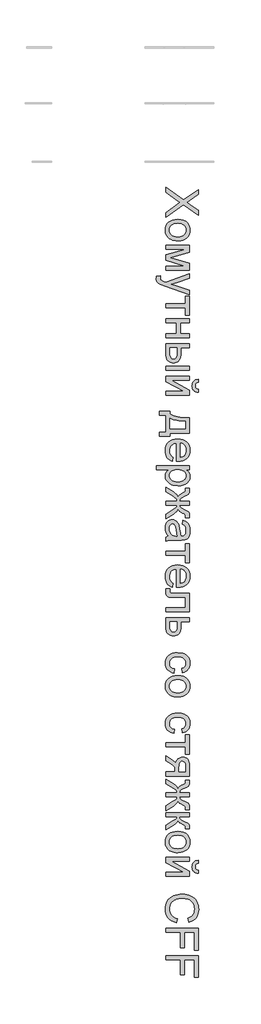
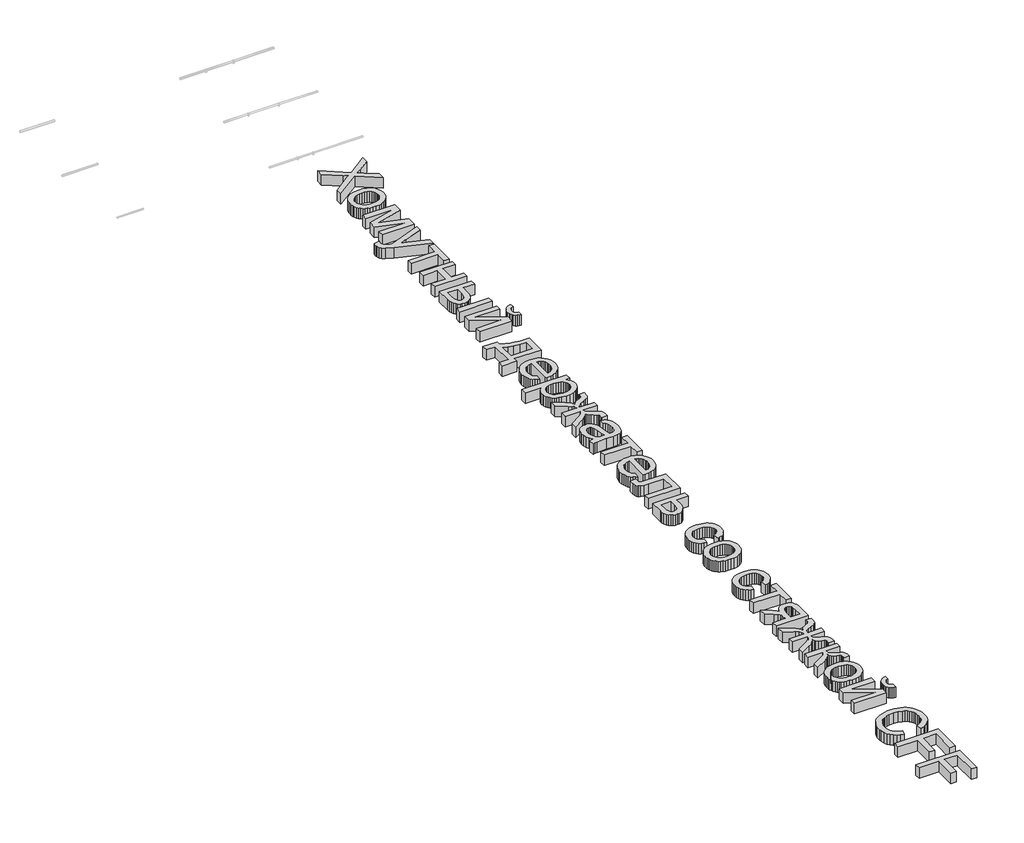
# One storey, part 24 of 33: 1 proxy.
"""IFC4 building model written with IfcOpenShell, lengths in millimetres."""

import ifcopenshell
import ifcopenshell.guid

model = None  # the IFC model being written
_history = None  # IfcOwnerHistory: only IFC2X3 demands one
_inside = {}  # id of a spatial element -> (the spatial element, [elements in it])
_under = {}  # id of a project, library or spatial element -> (it, [spatial elements below it])
_declared = {}  # id of a project -> (the project, [libraries it declares])
_typed = {}  # id of a type object -> (the type object, [elements of that type])
_made_of = {}  # id of a material, layer set ... -> (it, [elements and type objects made of it])


def new_model(schema):
    """Start an empty IFC model of exactly this schema.

    Asked for "IFC4X3", IfcOpenShell would pick the latest addendum, in which some entities
    have other attributes; the version numbers below select the first issue.
    IFC2X3 requires an IfcOwnerHistory on every rooted entity: one is made here for all.
    """
    global model, _history
    if schema == "IFC4X3":
        model = ifcopenshell.file(schema_version=(4, 3, 0, 0))
    else:
        model = ifcopenshell.file(schema=schema)
    _inside.clear()
    _under.clear()
    _declared.clear()
    _typed.clear()
    _made_of.clear()
    _history = None
    if model.schema == "IFC2X3":
        org = make("IfcOrganization", Name="unknown")
        user = make(
            "IfcPersonAndOrganization",
            ThePerson=make("IfcPerson", FamilyName="unknown"),
            TheOrganization=org,
        )
        app = make(
            "IfcApplication",
            ApplicationDeveloper=org,
            Version="unknown",
            ApplicationFullName="unknown",
            ApplicationIdentifier="unknown",
        )
        _history = make(
            "IfcOwnerHistory",
            OwningUser=user,
            OwningApplication=app,
            ChangeAction="ADDED",
            CreationDate=0,
        )
    return model


def make(cls, **values):
    """One entity of the class cls with the attributes given. An attribute that is None is left unset."""
    return model.create_entity(
        cls, **{name: value for name, value in values.items() if value is not None}
    )


def rooted(cls, **values):
    """An entity with a GlobalId (a new one), such as an element, a storey or a relation."""
    return make(cls, GlobalId=ifcopenshell.guid.new(), OwnerHistory=_history, **values)


def si_unit(unit_type, name, prefix=None):
    """IfcSIUnit, for example si_unit("LENGTHUNIT", "METRE", prefix="MILLI")."""
    return make("IfcSIUnit", UnitType=unit_type, Prefix=prefix, Name=name)


def assignment(units):
    """IfcUnitAssignment: the units of a project."""
    return None if units is None else make("IfcUnitAssignment", Units=units)


def point(xyz):
    """IfcCartesianPoint."""
    return None if xyz is None else make("IfcCartesianPoint", Coordinates=xyz)


def direction(xyz):
    """IfcDirection."""
    return None if xyz is None else make("IfcDirection", DirectionRatios=xyz)


def frame(location, z_axis=None, x_axis=None):
    """IfcAxis2Placement3D, a coordinate frame: its origin and axes. An axis left out is left unset."""
    return make(
        "IfcAxis2Placement3D",
        Location=point(location),
        Axis=direction(z_axis),
        RefDirection=direction(x_axis),
    )


def origin():
    """The frame at (0, 0, 0) with its axes left unset."""
    return frame((0.0, 0.0, 0.0))


def origin_with_axes():
    """The frame at (0, 0, 0) with the z axis (0, 0, 1) and the x axis (1, 0, 0) written out."""
    return frame((0.0, 0.0, 0.0), z_axis=(0.0, 0.0, 1.0), x_axis=(1.0, 0.0, 0.0))


def place(relative_to, where):
    """IfcLocalPlacement: puts the frame where relative to a parent placement (None: the world)."""
    return make(
        "IfcLocalPlacement", PlacementRelTo=relative_to, RelativePlacement=where
    )


def context(
    kind, dimensions, precision=None, world=None, true_north=None, identifier=None
):
    """IfcGeometricRepresentationContext, for example the 3D "Model" context."""
    return make(
        "IfcGeometricRepresentationContext",
        ContextIdentifier=identifier,
        ContextType=kind,
        CoordinateSpaceDimension=dimensions,
        Precision=precision,
        WorldCoordinateSystem=world,
        TrueNorth=true_north,
    )


def project(units=None, contexts=None):
    """IfcProject with its units and contexts."""
    return rooted(
        "IfcProject",
        Name="project",
        RepresentationContexts=contexts,
        UnitsInContext=assignment(units),
    )


def spatial(cls, under=None, at=None, **own):
    """A site, building, storey or space (cls), placed at a placement, below another one or the project."""
    s = rooted(cls, ObjectPlacement=at, **own)
    if under is not None:
        _under.setdefault(under.id(), (under, []))[1].append(s)
    return s


def polyline(points):
    """IfcPolyline through the points."""
    return make("IfcPolyline", Points=[point(p) for p in points])


def outline(outer, holes=None, kind="AREA"):
    """IfcArbitraryClosedProfileDef: a profile drawn as a closed curve; with holes, ...WithVoids."""
    if holes is None:
        return make("IfcArbitraryClosedProfileDef", ProfileType=kind, OuterCurve=outer)
    return make(
        "IfcArbitraryProfileDefWithVoids",
        ProfileType=kind,
        OuterCurve=outer,
        InnerCurves=holes,
    )


def extrude(swept, where, along, depth):
    """IfcExtrudedAreaSolid: the profile swept, set in the frame where, extruded along a direction by depth."""
    return make(
        "IfcExtrudedAreaSolid",
        SweptArea=swept,
        Position=where,
        ExtrudedDirection=direction(along),
        Depth=depth,
    )


def shape(context_of_items, identifier, shape_type, items):
    """IfcShapeRepresentation: the items that make up one representation, for example the "Body"."""
    return make(
        "IfcShapeRepresentation",
        ContextOfItems=context_of_items,
        RepresentationIdentifier=identifier,
        RepresentationType=shape_type,
        Items=items,
    )


def made_of(thing, what):
    """Note that an element or type object is made of a material, layer set ...; save() writes the relation."""
    if what is not None:
        _made_of.setdefault(what.id(), (what, []))[1].append(thing)
    return thing


def element(
    cls,
    number,
    at=None,
    inside=None,
    cuts=None,
    type_object=None,
    material=None,
    context=None,
    identifier="Body",
    shape_type=None,
    held_by="IfcProductDefinitionShape",
    body=None,
    shapes=None,
    **own,
):
    """One element of the class cls, such as IfcWall. Its Tag is "e" and its number.

    at: its placement. inside: the storey or other place that contains it. cuts: it is an
    opening in that element (IfcRelVoidsElement). A single representation is given by context,
    identifier, shape_type and body (its items); several are given by shapes. held_by: the class
    of the entity that holds the representations. save() writes the other relations.
    """
    e = rooted(cls, Tag="e%d" % number, ObjectPlacement=at, **own)
    if body is not None:
        shapes = [shape(context, identifier, shape_type, body)]
    if shapes is not None:
        e.Representation = make(held_by, Representations=shapes)
    if inside is not None:
        _inside.setdefault(inside.id(), (inside, []))[1].append(e)
    if cuts is not None:
        rooted(
            "IfcRelVoidsElement", RelatingBuildingElement=cuts, RelatedOpeningElement=e
        )
    if type_object is not None:
        _typed.setdefault(type_object.id(), (type_object, []))[1].append(e)
    return made_of(e, material)


def aggregate(whole, parts):
    """IfcRelAggregates: a whole, such as a stair, and the parts it consists of."""
    return rooted("IfcRelAggregates", RelatingObject=whole, RelatedObjects=parts)


def save(model, path):
    """Write the relations noted so far, then the file.

    IfcRelAggregates (storeys below a building ...), IfcRelContainedInSpatialStructure (elements
    in a storey), IfcRelDefinesByType, IfcRelAssociatesMaterial and IfcRelDeclares: one each for
    every whole, place, type object, material and project.
    """
    for whole, parts in _under.values():
        aggregate(whole, parts)
    for where, things in _inside.values():
        rooted(
            "IfcRelContainedInSpatialStructure",
            RelatedElements=things,
            RelatingStructure=where,
        )
    for kind, things in _typed.values():
        rooted("IfcRelDefinesByType", RelatedObjects=things, RelatingType=kind)
    for what, things in _made_of.values():
        rooted("IfcRelAssociatesMaterial", RelatedObjects=things, RelatingMaterial=what)
    for by, libraries in _declared.values():
        rooted("IfcRelDeclares", RelatingContext=by, RelatedDefinitions=libraries)
    model.write(path)


model = new_model("IFC4")

# Units and contexts
model_context = context("Model", 3, world=origin())
ifc_project = project(units=[si_unit("LENGTHUNIT", "METRE", prefix="MILLI")], contexts=[model_context])

# Site, building, storey
site = spatial("IfcSite", under=ifc_project)
building = spatial("IfcBuilding", under=site)
storey = spatial("IfcBuildingStorey", under=building, Name="Уровень 1", Elevation=0.0)

# Proxy
placement = place(None, origin())
element("IfcBuildingElementProxy", 1, Name="Надпись на модели 1", ObjectType="Надпись на модели 1", at=placement, inside=storey, context=model_context, shape_type="SweptSolid", body=[
    extrude(outline(polyline([(63524.4625724, -502.3363684), (63846.3856493, -730.0767531), (64115.2318032, -539.2594454), (64115.2318032, -627.8171377), (63963.9337262, -735.2690607), (63925.6043993, -760.90608), (63904.9433416, -771.4709838), (63964.9433416, -813.87483), (64115.2318032, -920.1729069), (64115.2318032, -1010.0286761), (63845.5202647, -819.2113684), (63524.4625724, -1046.9517531), (63524.4625724, -958.3940607), (63738.5010339, -806.6632915), (63782.9241109, -775.0767531), (63734.1741109, -740.3171377), (63524.4625724, -592.1921377), (63524.4625724, -502.3363684)])), origin_with_axes(), (0.0, 0.0, 1.0), 150.0),
    extrude(outline(polyline([(63741.3856493, -1083.87483), (63797.5725484, -1087.8682194), (63845.9890147, -1099.8483877), (63886.6350484, -1119.8153348), (63919.5106493, -1147.7690607), (63940.5232695, -1175.9120896), (63955.5322839, -1206.9757915), (63964.5376926, -1240.9601665), (63967.5394955, -1277.8652146), (63963.8841469, -1318.6058997), (63952.9181012, -1355.4433396), (63934.6413585, -1388.3775343), (63909.0539186, -1417.4084838), (63877.0211662, -1441.1028949), (63839.4084859, -1458.0274742), (63796.2158777, -1468.1822218), (63747.4433416, -1471.5671377), (63707.9150964, -1470.0707434), (63672.8399762, -1465.5815607), (63642.2179811, -1458.0995896), (63616.0491109, -1447.62483), (63593.445445, -1434.287991), (63573.5190628, -1418.2197819), (63556.2699642, -1399.4202026), (63541.6981493, -1377.8892531), (63530.1191229, -1354.4652747), (63521.8483897, -1329.9866088), (63516.8859498, -1304.4532555), (63515.2318032, -1277.8652146), (63518.8736301, -1236.5295776), (63529.7991109, -1199.3495896), (63548.0082455, -1166.3252506), (63573.5010339, -1137.4565607), (63605.8447839, -1114.0145535), (63644.6068032, -1097.2702627), (63689.7870916, -1087.2236881), (63741.3856493, -1083.87483)]), holes=[polyline([(63741.5298801, -1157.7209838), (63705.71107, -1159.8574021), (63674.6969474, -1166.2666569), (63648.4875123, -1176.9487482), (63627.0827647, -1191.9036761), (63610.4556613, -1210.0947819), (63598.5791589, -1230.4854069), (63591.4532575, -1253.0755511), (63589.077957, -1277.8652146), (63591.4667791, -1302.5286761), (63598.6332455, -1325.0286761), (63610.5773561, -1345.3652146), (63627.2991109, -1363.5382915), (63648.9156974, -1378.4932194), (63675.5443032, -1389.1753107), (63707.1849282, -1395.5845656), (63743.8375724, -1397.7209838), (63778.5205652, -1395.5710439), (63808.7233897, -1389.1212242), (63834.446046, -1378.3715247), (63855.6885339, -1363.3219454), (63872.3156373, -1345.0812603), (63884.1921397, -1324.7582434), (63891.3180412, -1302.3528949), (63893.6933416, -1277.8652146), (63891.3270556, -1253.0755511), (63884.2281974, -1230.4854069), (63872.3967671, -1210.0947819), (63855.8327647, -1191.9036761), (63834.4911181, -1176.9487482), (63808.3267551, -1166.2666569), (63777.3396758, -1159.8574021), (63741.5298801, -1157.7209838)])]), origin_with_axes(), (0.0, 0.0, 1.0), 150.0),
    extrude(outline(polyline([(63958.3087262, -1554.6440607), (63958.3087262, -1681.7113684), (63611.0010339, -1779.6440607), (63958.3087262, -1885.2209838), (63958.3087262, -2006.9517531), (63524.4625724, -2006.9517531), (63524.4625724, -1933.1055992), (63873.7894955, -1933.1055992), (63524.4625724, -1826.9517531), (63524.4625724, -1730.0286761), (63890.5202647, -1628.4902146), (63524.4625724, -1628.4902146), (63524.4625724, -1554.6440607), (63958.3087262, -1554.6440607)])), origin_with_axes(), (0.0, 0.0, 1.0), 150.0),
    extrude(outline(polyline([(63358.3087262, -2117.7209838), (63429.4144955, -2108.4902146), (63422.9241109, -2145.9902146), (63424.9613705, -2165.7137723), (63431.0731493, -2181.0382915), (63440.8267551, -2192.9733877), (63453.7894955, -2202.5286761), (63508.1644955, -2222.7209838), (63526.0491109, -2228.4902146), (63958.3087262, -2071.5671377), (63958.3087262, -2149.4517531), (63717.4433416, -2232.6729069), (63621.0971878, -2261.6632915), (63706.1933416, -2290.6536761), (63958.3087262, -2376.1825223), (63958.3087262, -2453.4902146), (63514.077957, -2302.4805992), (63417.7318032, -2263.24983), (63386.9745916, -2243.1656954), (63365.6644955, -2220.4132915), (63353.2245916, -2193.9830031), (63349.077957, -2162.8652146), (63351.3856493, -2141.4830031), (63358.3087262, -2117.7209838)])), origin_with_axes(), (0.0, 0.0, 1.0), 150.0),
    extrude(outline(polyline([(63958.3087262, -2477.7209838), (63958.3087262, -2828.4902146), (63884.4625724, -2828.4902146), (63884.4625724, -2690.0286761), (63524.4625724, -2690.0286761), (63524.4625724, -2616.1825223), (63884.4625724, -2616.1825223), (63884.4625724, -2477.7209838), (63958.3087262, -2477.7209838)])), origin_with_axes(), (0.0, 0.0, 1.0), 150.0),
    extrude(outline(polyline([(63958.3087262, -2893.1055992), (63958.3087262, -2966.9517531), (63792.1548801, -2966.9517531), (63792.1548801, -3160.7979069), (63958.3087262, -3160.7979069), (63958.3087262, -3234.6440607), (63524.4625724, -3234.6440607), (63524.4625724, -3160.7979069), (63718.3087262, -3160.7979069), (63718.3087262, -2966.9517531), (63524.4625724, -2966.9517531), (63524.4625724, -2893.1055992), (63958.3087262, -2893.1055992)])), origin_with_axes(), (0.0, 0.0, 1.0), 150.0),
    extrude(outline(polyline([(63958.3087262, -3345.4132915), (63958.3087262, -3419.2594454), (63801.3856493, -3419.2594454), (63801.3856493, -3510.5575223), (63799.0734498, -3552.569241), (63792.1368512, -3589.4697819), (63780.5758537, -3621.2591449), (63764.390457, -3647.93733), (63744.1395556, -3669.0446016), (63720.3820436, -3684.1212242), (63693.117921, -3693.1671978), (63662.3471878, -3696.1825223), (63634.8937623, -3693.6539766), (63609.5046397, -3686.0683396), (63586.17982, -3673.4256112), (63564.9193032, -3655.7257915), (63547.2194835, -3632.4730872), (63534.5767551, -3603.171705), (63526.9911181, -3567.8216449), (63524.4625724, -3526.4229069), (63524.4625724, -3345.4132915), (63958.3087262, -3345.4132915)]), holes=[polyline([(63598.3087262, -3419.2594454), (63598.3087262, -3495.12483), (63602.1849282, -3553.9349261), (63607.0301806, -3575.9571617), (63613.8135339, -3593.0575223), (63622.6521758, -3605.8670175), (63633.6632936, -3615.0166569), (63646.8468873, -3620.5064406), (63662.202957, -3622.3363684), (63686.3255532, -3616.9096857), (63707.6356493, -3600.6296377), (63716.343582, -3586.4995295), (63722.5635339, -3565.8159357), (63727.5394955, -3504.7882915), (63727.5394955, -3419.2594454), (63598.3087262, -3419.2594454)])]), origin_with_axes(), (0.0, 0.0, 1.0), 150.0),
    extrude(outline(polyline([(63958.3087262, -3751.5671377), (63958.3087262, -3825.4132915), (63524.4625724, -3825.4132915), (63524.4625724, -3751.5671377), (63958.3087262, -3751.5671377)])), origin_with_axes(), (0.0, 0.0, 1.0), 150.0),
    extrude(outline(polyline([(64115.2318032, -4176.1825223), (64115.2318032, -4231.5671377), (64090.0319835, -4227.1095055), (64067.9421397, -4219.6500704), (64048.9622719, -4209.1888324), (64033.0923801, -4195.7257915), (64020.5668392, -4179.5313805), (64011.6200243, -4160.8760319), (64006.2519354, -4139.7597458), (64004.4625724, -4116.1825223), (64006.2384137, -4090.5725463), (64011.5659378, -4067.6849261), (64020.4451445, -4047.5196617), (64032.8760339, -4030.0767531), (64048.6783176, -4015.608604), (64067.671707, -4004.3676184), (64089.8562022, -3996.3537963), (64115.2318032, -3991.5671377), (64115.2318032, -4046.9517531), (64090.9108897, -4054.7402146), (64073.6212262, -4067.7209838), (64063.2906974, -4085.9661761), (64059.8471878, -4109.5479069), (64063.1825243, -4136.1584838), (64073.1885339, -4155.4132915), (64090.3700243, -4168.3940607), (64115.2318032, -4176.1825223)])), origin_with_axes(), (0.0, 0.0, 1.0), 150.0),
    extrude(outline(polyline([(63958.3087262, -3936.1825223), (63958.3087262, -4010.0286761), (63627.4433416, -4010.0286761), (63958.3087262, -4191.4709838), (63958.3087262, -4286.9517531), (63524.4625724, -4286.9517531), (63524.4625724, -4213.1055992), (63853.3087262, -4213.1055992), (63524.4625724, -4032.8171377), (63524.4625724, -3936.1825223), (63958.3087262, -3936.1825223)])), origin_with_axes(), (0.0, 0.0, 1.0), 150.0),
    extrude(outline(polyline([(63958.3087262, -4693.1055992), (63958.3087262, -4970.0286761), (63598.3087262, -4970.0286761), (63598.3087262, -5025.4132915), (63404.4625724, -5025.4132915), (63404.4625724, -4951.5671377), (63524.4625724, -4951.5671377), (63524.4625724, -4646.9517531), (63404.4625724, -4646.9517531), (63404.4625724, -4573.1055992), (63598.3087262, -4573.1055992), (63598.3087262, -4619.2594454), (63626.1768152, -4637.2927987), (63658.9397359, -4652.8111281), (63696.5974883, -4665.8144333), (63739.1500724, -4676.3027146), (63838.9397359, -4689.734205), (63958.3087262, -4693.1055992)]), holes=[polyline([(63884.4625724, -4757.7209838), (63794.0479089, -4751.6632915), (63716.2173801, -4740.4132915), (63650.9709859, -4723.9709838), (63598.3087262, -4702.3363684), (63598.3087262, -4896.1825223), (63884.4625724, -4896.1825223), (63884.4625724, -4757.7209838)])]), origin_with_axes(), (0.0, 0.0, 1.0), 150.0),
    extrude(outline(polyline([(63653.6933416, -5412.2402146), (63644.4625724, -5484.6440607), (63615.4631734, -5473.5427987), (63589.9072839, -5458.5563204), (63567.7949041, -5439.6846256), (63549.1260339, -5416.9277146), (63534.297308, -5390.5199622), (63523.7053609, -5360.6957434), (63517.3501926, -5327.4550583), (63515.2318032, -5290.7979069), (63518.8871517, -5244.9775944), (63529.8531974, -5204.1512723), (63548.1299402, -5168.3189406), (63573.7173801, -5137.4805992), (63605.9033777, -5112.6819213), (63643.9757936, -5094.96858), (63687.9346277, -5084.3405752), (63737.7798801, -5080.7979069), (63789.3153368, -5084.3766329), (63834.7390147, -5095.1128107), (63874.0509137, -5113.0064406), (63907.2510339, -5138.0575223), (63933.6272359, -5168.8147338), (63952.4673801, -5203.8267531), (63963.7714666, -5243.09358), (63967.5394955, -5286.6152146), (63963.7804811, -5328.7351064), (63952.5034378, -5366.8255511), (63933.7083657, -5400.8865487), (63907.3952647, -5430.9180992), (63874.2672599, -5455.4328228), (63835.0274762, -5472.9433396), (63789.6759137, -5483.4496497), (63738.2125724, -5486.9517531), (63718.3087262, -5486.5190607), (63718.3087262, -5154.6440607), (63688.8405772, -5158.9214045), (63663.0322839, -5167.4265127), (63640.8838464, -5180.1593853), (63622.3952647, -5197.1200223), (63607.8189426, -5217.3709237), (63597.4072839, -5239.9745896), (63591.1602887, -5264.9310199), (63589.077957, -5292.2402146), (63592.9361301, -5331.5430992), (63604.5106493, -5364.6440607), (63624.5226686, -5391.5430992), (63653.6933416, -5412.2402146)]), holes=[polyline([(63792.1548801, -5154.6440607), (63792.1548801, -5413.1055992), (63831.1693032, -5403.1176184), (63846.5118512, -5394.5268732), (63859.077957, -5383.5382915), (63874.2221878, -5363.4000704), (63885.0394955, -5340.4854069), (63891.5298801, -5314.7943011), (63893.6933416, -5286.3267531), (63891.9670796, -5260.3607074), (63886.7882936, -5236.5491088), (63878.1569835, -5214.8919574), (63866.0731493, -5195.3892531), (63851.0956854, -5179.023568), (63833.7834859, -5166.7774742), (63814.1365508, -5158.6509718), (63792.1548801, -5154.6440607)])]), origin_with_axes(), (0.0, 0.0, 1.0), 150.0),
    extrude(outline(polyline([(63358.3087262, -5560.7979069), (63958.3087262, -5560.7979069), (63958.3087262, -5634.6440607), (63885.9048801, -5634.6440607), (63921.6200243, -5658.7305992), (63947.1308416, -5685.7017531), (63962.437332, -5717.1440607), (63967.5394955, -5754.6440607), (63965.7546397, -5780.3982675), (63960.4000724, -5804.5839646), (63951.4757936, -5827.2011521), (63938.9818032, -5848.24983), (63923.2426205, -5867.2702627), (63904.5827647, -5883.8027146), (63883.0022359, -5897.8471857), (63858.5010339, -5909.4036761), (63804.0899762, -5924.8724261), (63744.702957, -5930.0286761), (63681.5479089, -5924.2053588), (63652.4718873, -5916.9262122), (63625.0635339, -5906.7354069), (63600.0394955, -5893.7726665), (63578.1164186, -5878.1777146), (63559.2943032, -5859.9505511), (63543.5731493, -5839.0911761), (63531.1738104, -5816.6227266), (63522.3171397, -5793.5683396), (63517.0031373, -5769.9280151), (63515.2318032, -5745.7017531), (63519.9733897, -5711.7534357), (63534.1981493, -5681.4469454), (63555.6705051, -5655.5034357), (63582.1548801, -5634.6440607), (63358.3087262, -5634.6440607), (63358.3087262, -5560.7979069)]), holes=[polyline([(63737.9241109, -5634.6440607), (63702.3351686, -5636.6407555), (63671.7221878, -5642.6308396), (63646.0851686, -5652.6143131), (63625.4241109, -5666.5911761), (63609.5226686, -5683.4165968), (63598.1644955, -5701.9457434), (63591.3495916, -5722.178616), (63589.077957, -5744.1152146), (63591.4307214, -5766.367318), (63598.4890147, -5786.9697819), (63610.2528368, -5805.9226064), (63626.7221878, -5823.2257915), (63648.1314426, -5837.6443612), (63674.7149762, -5847.9433396), (63706.4727887, -5854.1227266), (63743.4048801, -5856.1825223), (63778.687332, -5854.1723059), (63809.2462262, -5848.1416569), (63835.0815628, -5838.0905752), (63856.1933416, -5824.0190607), (63872.5995916, -5807.1530752), (63884.3183416, -5788.71858), (63891.3495916, -5768.7155752), (63893.6933416, -5747.1440607), (63891.2008537, -5725.6401545), (63883.7233897, -5705.4072819), (63871.2609498, -5686.445443), (63853.8135339, -5668.7546377), (63831.6155171, -5653.8312603), (63804.9012743, -5643.171705), (63773.6708056, -5636.7759718), (63737.9241109, -5634.6440607)])]), origin_with_axes(), (0.0, 0.0, 1.0), 150.0),
    extrude(outline(polyline([(63958.3087262, -6280.7979069), (63773.6933416, -6280.7979069), (63777.4974282, -6306.8495896), (63788.9096878, -6323.8507915), (63816.2594474, -6340.2750704), (63867.8760339, -6364.5959838), (63917.0947839, -6390.0166569), (63933.1855291, -6401.8886521), (63943.5971878, -6413.2017531), (63954.6308416, -6441.3628107), (63958.3087262, -6482.2882915), (63958.3087262, -6511.5671377), (63884.0298801, -6511.5671377), (63884.4625724, -6491.2305992), (63882.5515147, -6466.8555992), (63876.8183416, -6453.1536761), (63860.8087262, -6442.2281954), (63828.9337262, -6426.7594454), (63796.8423801, -6410.8039165), (63776.4337262, -6396.1104069), (63762.4793993, -6378.1356473), (63749.7510339, -6352.3363684), (63739.3574041, -6376.6302386), (63721.0130532, -6400.6176184), (63694.7179811, -6424.2985079), (63660.4721878, -6447.6729069), (63524.4625724, -6530.0286761), (63524.4625724, -6445.3652146), (63658.5971878, -6364.3075223), (63693.8075243, -6342.1500704), (63714.3423801, -6322.9854069), (63724.2402166, -6303.6043973), (63727.5394955, -6280.7979069), (63524.4625724, -6280.7979069), (63524.4625724, -6206.9517531), (63727.5394955, -6206.9517531), (63724.312332, -6184.3255511), (63714.6308416, -6164.9084838), (63694.2402166, -6145.5995896), (63658.8856493, -6123.2979069), (63524.4625724, -6042.2402146), (63524.4625724, -5957.7209838), (63660.4721878, -6039.7882915), (63694.7179811, -6063.3610079), (63721.0130532, -6087.2041569), (63739.3574041, -6111.3177386), (63749.7510339, -6135.7017531), (63763.8856493, -6107.5046377), (63779.1741109, -6089.2594454), (63806.0370916, -6072.6729069), (63854.8952647, -6049.4517531), (63871.1572839, -6040.0406954), (63879.8471878, -6029.9805992), (63883.6332455, -6016.6753107), (63884.8952647, -5998.1055992), (63884.4625724, -5976.1825223), (63958.3087262, -5976.1825223), (63958.3087262, -5987.2882915), (63957.1548801, -6026.4830031), (63953.6933416, -6052.0479069), (63946.4818032, -6069.8243492), (63934.077957, -6085.6536761), (63910.0274762, -6102.4926184), (63867.8760339, -6123.2979069), (63816.890457, -6147.3664165), (63789.4144955, -6163.6104069), (63777.6236301, -6180.6116088), (63773.6933416, -6206.9517531), (63958.3087262, -6206.9517531), (63958.3087262, -6280.7979069)])), origin_with_axes(), (0.0, 0.0, 1.0), 150.0),
    extrude(outline(polyline([(63579.8471878, -6843.87483), (63549.5947839, -6808.5923781), (63529.7991109, -6772.2642531), (63518.8736301, -6734.0611281), (63515.2318032, -6693.1536761), (63517.422308, -6660.273568), (63523.9938224, -6631.4409357), (63534.9463464, -6606.6557795), (63550.2798801, -6585.9180992), (63569.0208657, -6569.5433997), (63590.1957455, -6557.8471857), (63613.8045195, -6550.8294574), (63639.8471878, -6548.4902146), (63670.4601686, -6552.0238684), (63698.2606493, -6562.62483), (63722.0587262, -6578.9769934), (63740.6644955, -6599.7642531), (63754.7269955, -6624.1933396), (63764.8952647, -6651.4709838), (63776.0010339, -6715.3652146), (63787.6837262, -6790.8700223), (63801.3856493, -6843.4421377), (63817.827957, -6843.87483), (63850.7846878, -6838.7906954), (63862.9902166, -6832.4355271), (63872.3471878, -6823.5382915), (63881.6861301, -6808.1596857), (63888.3568032, -6789.4277146), (63893.6933416, -6741.9036761), (63890.1416589, -6697.9132915), (63879.4866109, -6667.1921377), (63859.781082, -6646.2426184), (63829.077957, -6631.5671377), (63838.3087262, -6557.7209838), (63878.6933416, -6570.5394934), (63910.4241109, -6589.6680992), (63934.6909378, -6616.8916569), (63952.6837262, -6653.9950223), (63963.8255532, -6699.3736281), (63967.5394955, -6751.4229069), (63964.2582455, -6801.3447819), (63954.4144955, -6840.9180992), (63939.6128128, -6870.7558396), (63921.4577647, -6891.4709838), (63899.0118512, -6905.2089646), (63871.3375724, -6914.1152146), (63806.7221878, -6917.7209838), (63714.8471878, -6917.7209838), (63586.5539186, -6921.4709838), (63554.8411782, -6927.0238684), (63524.4625724, -6936.1825223), (63524.4625724, -6862.3363684), (63550.1356493, -6850.5094454), (63579.8471878, -6843.87483)]), holes=[polyline([(63727.5394955, -6843.87483), (63715.2438224, -6794.2594454), (63704.8952647, -6724.7402146), (63692.9241109, -6661.2065607), (63684.7390147, -6644.6741088), (63673.452957, -6632.4325223), (63659.9313224, -6624.8604069), (63645.0394955, -6622.3363684), (63623.0803609, -6627.8351665), (63605.0875724, -6644.3315607), (63593.0803609, -6671.4649742), (63589.077957, -6708.87483), (63593.4950243, -6748.5382915), (63606.7462262, -6783.5863684), (63626.2714666, -6811.99983), (63649.5106493, -6831.7594454), (63673.452957, -6840.5214646), (63706.6260339, -6843.4421377), (63727.5394955, -6843.87483)])]), origin_with_axes(), (0.0, 0.0, 1.0), 150.0),
    extrude(outline(polyline([(63958.3087262, -6982.3363684), (63958.3087262, -7333.1055992), (63884.4625724, -7333.1055992), (63884.4625724, -7194.6440607), (63524.4625724, -7194.6440607), (63524.4625724, -7120.7979069), (63884.4625724, -7120.7979069), (63884.4625724, -6982.3363684), (63958.3087262, -6982.3363684)])), origin_with_axes(), (0.0, 0.0, 1.0), 150.0),
    extrude(outline(polyline([(63653.6933416, -7701.4709838), (63644.4625724, -7773.87483), (63615.4631734, -7762.773568), (63589.9072839, -7747.7870896), (63567.7949041, -7728.9153949), (63549.1260339, -7706.1584838), (63534.297308, -7679.7507314), (63523.7053609, -7649.9265127), (63517.3501926, -7616.6858276), (63515.2318032, -7580.0286761), (63518.8871517, -7534.2083636), (63529.8531974, -7493.3820415), (63548.1299402, -7457.5497098), (63573.7173801, -7426.7113684), (63605.9033777, -7401.9126906), (63643.9757936, -7384.1993492), (63687.9346277, -7373.5713444), (63737.7798801, -7370.0286761), (63789.3153368, -7373.6074021), (63834.7390147, -7384.34358), (63874.0509137, -7402.2372098), (63907.2510339, -7427.2882915), (63933.6272359, -7458.0455031), (63952.4673801, -7493.0575223), (63963.7714666, -7532.3243492), (63967.5394955, -7575.8459838), (63963.7804811, -7617.9658756), (63952.5034378, -7656.0563204), (63933.7083657, -7690.117318), (63907.3952647, -7720.1488684), (63874.2672599, -7744.663592), (63835.0274762, -7762.1741088), (63789.6759137, -7772.6804189), (63738.2125724, -7776.1825223), (63718.3087262, -7775.74983), (63718.3087262, -7443.87483), (63688.8405772, -7448.1521737), (63663.0322839, -7456.6572819), (63640.8838464, -7469.3901545), (63622.3952647, -7486.3507915), (63607.8189426, -7506.601693), (63597.4072839, -7529.2053588), (63591.1602887, -7554.1617891), (63589.077957, -7581.4709838), (63592.9361301, -7620.7738684), (63604.5106493, -7653.87483), (63624.5226686, -7680.7738684), (63653.6933416, -7701.4709838)]), holes=[polyline([(63792.1548801, -7443.87483), (63792.1548801, -7702.3363684), (63831.1693032, -7692.3483877), (63846.5118512, -7683.7576425), (63859.077957, -7672.7690607), (63874.2221878, -7652.6308396), (63885.0394955, -7629.7161761), (63891.5298801, -7604.0250704), (63893.6933416, -7575.5575223), (63891.9670796, -7549.5914766), (63886.7882936, -7525.7798781), (63878.1569835, -7504.1227266), (63866.0731493, -7484.6200223), (63851.0956854, -7468.2543372), (63833.7834859, -7456.0082434), (63814.1365508, -7447.881741), (63792.1548801, -7443.87483)])]), origin_with_axes(), (0.0, 0.0, 1.0), 150.0),
    extrude(outline(polyline([(63958.3087262, -7886.9517531), (63958.3087262, -8219.2594454), (63524.8952647, -8219.2594454), (63524.8952647, -8145.4132915), (63884.4625724, -8145.4132915), (63884.4625724, -7960.7979069), (63677.4914186, -7960.7979069), (63617.4193032, -7959.5539165), (63582.0106493, -7955.8219454), (63560.3940628, -7946.5010319), (63541.6981493, -7928.4902146), (63528.7714666, -7901.1584838), (63524.4625724, -7863.87483), (63528.2125724, -7803.87483), (63598.3087262, -7803.87483), (63598.3087262, -7836.9036761), (63602.8519955, -7870.2930992), (63608.7293993, -7878.640455), (63617.2750724, -7883.6344454), (63681.6741109, -7886.9517531), (63958.3087262, -7886.9517531)])), origin_with_axes(), (0.0, 0.0, 1.0), 150.0),
    extrude(outline(polyline([(63958.3087262, -8330.0286761), (63958.3087262, -8403.87483), (63801.3856493, -8403.87483), (63801.3856493, -8488.9709838), (63799.0734498, -8528.2558396), (63792.1368512, -8562.7450223), (63780.5758537, -8592.4385319), (63764.390457, -8617.3363684), (63744.1395556, -8637.0238684), (63720.3820436, -8651.0863684), (63693.117921, -8659.5238684), (63662.3471878, -8662.3363684), (63634.8937623, -8659.9430391), (63609.5046397, -8652.7630511), (63586.17982, -8640.7964045), (63564.9193032, -8624.0430992), (63547.2194835, -8602.0253708), (63534.5767551, -8574.265455), (63526.9911181, -8540.7633516), (63524.4625724, -8501.5190607), (63524.4625724, -8330.0286761), (63958.3087262, -8330.0286761)]), holes=[polyline([(63598.3087262, -8403.87483), (63598.3087262, -8472.8171377), (63602.1849282, -8526.3087242), (63607.0301806, -8546.3342651), (63613.8135339, -8561.8796377), (63622.6521758, -8573.5217651), (63633.6632936, -8581.8375704), (63646.8468873, -8586.8270535), (63662.202957, -8588.4902146), (63686.3255532, -8583.5683396), (63707.6356493, -8568.8027146), (63716.343582, -8555.9706833), (63722.5635339, -8537.1620896), (63727.5394955, -8481.6152146), (63727.5394955, -8403.87483), (63598.3087262, -8403.87483)])]), origin_with_axes(), (0.0, 0.0, 1.0), 150.0),
    extrude(outline(polyline([(63681.3856493, -9262.3363684), (63672.1548801, -9336.1825223), (63637.3096277, -9328.1506713), (63606.4757936, -9315.59358), (63579.6533777, -9298.5112482), (63556.8423801, -9276.9036761), (63538.6377527, -9251.6813204), (63525.6344474, -9223.7546377), (63517.8324642, -9193.1236281), (63515.2318032, -9159.7882915), (63518.8601085, -9118.3715247), (63529.7450243, -9081.2366088), (63547.8865508, -9048.3835439), (63573.2846878, -9019.81233), (63605.461671, -8996.6858276), (63643.9397359, -8980.1668973), (63688.7188825, -8970.2555391), (63739.7991109, -8966.9517531), (63805.5142551, -8972.5947819), (63835.08607, -8979.648568), (63862.4673801, -8989.5238684), (63887.1083056, -9002.2882915), (63908.4589666, -9018.0094454), (63926.5193633, -9036.68733), (63941.2894955, -9058.3219454), (63952.7738705, -9081.9352266), (63960.9769955, -9106.5491088), (63965.8988705, -9132.163592), (63967.5394955, -9158.7786761), (63965.2858897, -9191.5415968), (63958.5250724, -9221.1765127), (63947.2570436, -9247.6834237), (63931.4818032, -9271.06233), (63911.5599282, -9290.9165968), (63887.8519955, -9306.8495896), (63860.3580051, -9318.8613083), (63829.077957, -9326.9517531), (63819.8471878, -9253.1055992), (63852.0647359, -9239.7101665), (63875.1596878, -9218.8507915), (63889.0599282, -9191.6813204), (63893.6933416, -9159.3555992), (63891.4126926, -9134.2639526), (63884.5707455, -9111.6332434), (63873.1675003, -9091.4634718), (63857.202957, -9073.7546377), (63836.3075243, -9059.336068), (63810.1116109, -9049.0370896), (63778.6152166, -9042.8577026), (63741.8183416, -9040.7979069), (63704.4670796, -9042.8126305), (63672.6056012, -9048.8568011), (63646.2339065, -9058.9304189), (63625.3519955, -9073.0334838), (63609.4821037, -9090.3907555), (63598.1464666, -9110.2269934), (63591.3450844, -9132.5421978), (63589.077957, -9157.3363684), (63594.7390147, -9195.5755511), (63601.8153368, -9212.1125103), (63611.7221878, -9226.9277146), (63624.5677407, -9239.6065006), (63640.4601686, -9249.734205), (63659.3994714, -9257.3108276), (63681.3856493, -9262.3363684)])), origin_with_axes(), (0.0, 0.0, 1.0), 150.0),
    extrude(outline(polyline([(63741.3856493, -9382.3363684), (63797.5725484, -9386.3297579), (63845.9890147, -9398.3099261), (63886.6350484, -9418.2768732), (63919.5106493, -9446.2305992), (63940.5232695, -9474.3736281), (63955.5322839, -9505.43733), (63964.5376926, -9539.421705), (63967.5394955, -9576.3267531), (63963.8841469, -9617.0674381), (63952.9181012, -9653.9048781), (63934.6413585, -9686.8390728), (63909.0539186, -9715.8700223), (63877.0211662, -9739.5644333), (63839.4084859, -9756.4890127), (63796.2158777, -9766.6437603), (63747.4433416, -9770.0286761), (63707.9150964, -9768.5322819), (63672.8399762, -9764.0430992), (63642.2179811, -9756.5611281), (63616.0491109, -9746.0863684), (63593.445445, -9732.7495295), (63573.5190628, -9716.6813204), (63556.2699642, -9697.881741), (63541.6981493, -9676.3507915), (63530.1191229, -9652.9268131), (63521.8483897, -9628.4481473), (63516.8859498, -9602.9147939), (63515.2318032, -9576.3267531), (63518.8736301, -9534.991116), (63529.7991109, -9497.8111281), (63548.0082455, -9464.7867891), (63573.5010339, -9435.9180992), (63605.8447839, -9412.476092), (63644.6068032, -9395.7318011), (63689.7870916, -9385.6852266), (63741.3856493, -9382.3363684)]), holes=[polyline([(63741.5298801, -9456.1825223), (63705.71107, -9458.3189406), (63674.6969474, -9464.7281954), (63648.4875123, -9475.4102867), (63627.0827647, -9490.3652146), (63610.4556613, -9508.5563204), (63598.5791589, -9528.9469454), (63591.4532575, -9551.5370896), (63589.077957, -9576.3267531), (63591.4667791, -9600.9902146), (63598.6332455, -9623.4902146), (63610.5773561, -9643.8267531), (63627.2991109, -9661.99983), (63648.9156974, -9676.9547579), (63675.5443032, -9687.6368492), (63707.1849282, -9694.046104), (63743.8375724, -9696.1825223), (63778.5205652, -9694.0325824), (63808.7233897, -9687.5827627), (63834.446046, -9676.8330631), (63855.6885339, -9661.7834838), (63872.3156373, -9643.5427987), (63884.1921397, -9623.2197819), (63891.3180412, -9600.8144333), (63893.6933416, -9576.3267531), (63891.3270556, -9551.5370896), (63884.2281974, -9528.9469454), (63872.3967671, -9508.5563204), (63855.8327647, -9490.3652146), (63834.4911181, -9475.4102867), (63808.3267551, -9464.7281954), (63777.3396758, -9458.3189406), (63741.5298801, -9456.1825223)])]), origin_with_axes(), (0.0, 0.0, 1.0), 150.0),
    extrude(outline(polyline([(63681.3856493, -10360.7979069), (63672.1548801, -10434.6440607), (63637.3096277, -10426.6122098), (63606.4757936, -10414.0551184), (63579.6533777, -10396.9727867), (63556.8423801, -10375.3652146), (63538.6377527, -10350.1428588), (63525.6344474, -10322.2161761), (63517.8324642, -10291.5851665), (63515.2318032, -10258.24983), (63518.8601085, -10216.8330631), (63529.7450243, -10179.6981473), (63547.8865508, -10146.8450824), (63573.2846878, -10118.2738684), (63605.461671, -10095.147366), (63643.9397359, -10078.6284357), (63688.7188825, -10068.7170776), (63739.7991109, -10065.4132915), (63805.5142551, -10071.0563204), (63835.08607, -10078.1101064), (63862.4673801, -10087.9854069), (63887.1083056, -10100.74983), (63908.4589666, -10116.4709838), (63926.5193633, -10135.1488684), (63941.2894955, -10156.7834838), (63952.7738705, -10180.3967651), (63960.9769955, -10205.0106473), (63965.8988705, -10230.6251305), (63967.5394955, -10257.2402146), (63965.2858897, -10290.0031353), (63958.5250724, -10319.6380511), (63947.2570436, -10346.1449622), (63931.4818032, -10369.5238684), (63911.5599282, -10389.3781353), (63887.8519955, -10405.3111281), (63860.3580051, -10417.3228468), (63829.077957, -10425.4132915), (63819.8471878, -10351.5671377), (63852.0647359, -10338.171705), (63875.1596878, -10317.31233), (63889.0599282, -10290.1428588), (63893.6933416, -10257.8171377), (63891.4126926, -10232.725491), (63884.5707455, -10210.0947819), (63873.1675003, -10189.9250103), (63857.202957, -10172.2161761), (63836.3075243, -10157.7976064), (63810.1116109, -10147.4986281), (63778.6152166, -10141.319241), (63741.8183416, -10139.2594454), (63704.4670796, -10141.2741689), (63672.6056012, -10147.3183396), (63646.2339065, -10157.3919574), (63625.3519955, -10171.4950223), (63609.4821037, -10188.8522939), (63598.1464666, -10208.6885319), (63591.3450844, -10231.0037362), (63589.077957, -10255.7979069), (63594.7390147, -10294.0370896), (63601.8153368, -10310.5740487), (63611.7221878, -10325.3892531), (63624.5677407, -10338.0680391), (63640.4601686, -10348.1957434), (63659.3994714, -10355.772366), (63681.3856493, -10360.7979069)])), origin_with_axes(), (0.0, 0.0, 1.0), 150.0),
    extrude(outline(polyline([(63958.3087262, -10462.3363684), (63958.3087262, -10813.1055992), (63884.4625724, -10813.1055992), (63884.4625724, -10674.6440607), (63524.4625724, -10674.6440607), (63524.4625724, -10600.7979069), (63884.4625724, -10600.7979069), (63884.4625724, -10462.3363684), (63958.3087262, -10462.3363684)])), origin_with_axes(), (0.0, 0.0, 1.0), 150.0),
    extrude(outline(polyline([(63958.3087262, -11210.0286761), (63524.4625724, -11210.0286761), (63524.4625724, -11136.1825223), (63690.6164186, -11136.1825223), (63690.6164186, -11095.9421377), (63688.2726686, -11063.8507915), (63681.2414186, -11041.1344454), (63660.796707, -11019.2474261), (63618.2125724, -10989.6440607), (63524.4625724, -10930.7979069), (63524.4625724, -10845.4132915), (63643.0202647, -10919.5479069), (63685.5683416, -10952.2882915), (63697.9721878, -10967.6849261), (63704.4625724, -10982.4325223), (63710.4571637, -10955.3171377), (63719.9313224, -10931.9517531), (63732.8850484, -10912.3363684), (63749.3183416, -10896.4709838), (63768.1765147, -10884.2293973), (63788.4048801, -10875.4854069), (63810.0034378, -10870.2390127), (63832.9721878, -10868.4902146), (63859.5647359, -10870.8790367), (63883.5250724, -10878.0455031), (63904.8531974, -10889.9896136), (63923.5491109, -10906.7113684), (63938.7564426, -10927.9583636), (63949.6188224, -10953.4781954), (63956.1362503, -10983.2708636), (63958.3087262, -11017.3363684), (63958.3087262, -11210.0286761)]), holes=[polyline([(63884.4625724, -11136.1825223), (63884.4625724, -11038.8267531), (63880.1897359, -10988.5443011), (63874.8486902, -10971.5566208), (63867.3712262, -10960.0046377), (63848.8195436, -10946.7534357), (63827.3471878, -10942.3363684), (63812.1984498, -10943.9634718), (63799.2041589, -10948.8447819), (63788.3643152, -10956.9802987), (63779.6789186, -10968.3700223), (63773.0217671, -10983.897366), (63768.2666589, -11004.4457434), (63764.4625724, -11060.6055992), (63764.4625724, -11136.1825223), (63884.4625724, -11136.1825223)])]), origin_with_axes(), (0.0, 0.0, 1.0), 150.0),
    extrude(outline(polyline([(63958.3087262, -11588.4902146), (63773.6933416, -11588.4902146), (63777.4974282, -11614.5418973), (63788.9096878, -11631.5430992), (63816.2594474, -11647.9673781), (63867.8760339, -11672.2882915), (63917.0947839, -11697.7089646), (63933.1855291, -11709.5809598), (63943.5971878, -11720.8940607), (63954.6308416, -11749.0551184), (63958.3087262, -11789.9805992), (63958.3087262, -11819.2594454), (63884.0298801, -11819.2594454), (63884.4625724, -11798.9229069), (63882.5515147, -11774.5479069), (63876.8183416, -11760.8459838), (63860.8087262, -11749.9205031), (63828.9337262, -11734.4517531), (63796.8423801, -11718.4962242), (63776.4337262, -11703.8027146), (63762.4793993, -11685.827955), (63749.7510339, -11660.0286761), (63739.3574041, -11684.3225463), (63721.0130532, -11708.3099261), (63694.7179811, -11731.9908156), (63660.4721878, -11755.3652146), (63524.4625724, -11837.7209838), (63524.4625724, -11753.0575223), (63658.5971878, -11671.99983), (63693.8075243, -11649.8423781), (63714.3423801, -11630.6777146), (63724.2402166, -11611.296705), (63727.5394955, -11588.4902146), (63524.4625724, -11588.4902146), (63524.4625724, -11514.6440607), (63727.5394955, -11514.6440607), (63724.312332, -11492.0178588), (63714.6308416, -11472.6007915), (63694.2402166, -11453.2918973), (63658.8856493, -11430.9902146), (63524.4625724, -11349.9325223), (63524.4625724, -11265.4132915), (63660.4721878, -11347.4805992), (63694.7179811, -11371.0533156), (63721.0130532, -11394.8964646), (63739.3574041, -11419.0100463), (63749.7510339, -11443.3940607), (63763.8856493, -11415.1969454), (63779.1741109, -11396.9517531), (63806.0370916, -11380.3652146), (63854.8952647, -11357.1440607), (63871.1572839, -11347.7330031), (63879.8471878, -11337.6729069), (63883.6332455, -11324.3676184), (63884.8952647, -11305.7979069), (63884.4625724, -11283.87483), (63958.3087262, -11283.87483), (63958.3087262, -11294.9805992), (63957.1548801, -11334.1753107), (63953.6933416, -11359.7402146), (63946.4818032, -11377.5166569), (63934.077957, -11393.3459838), (63910.0274762, -11410.1849261), (63867.8760339, -11430.9902146), (63816.890457, -11455.0587242), (63789.4144955, -11471.3027146), (63777.6236301, -11488.3039165), (63773.6933416, -11514.6440607), (63958.3087262, -11514.6440607), (63958.3087262, -11588.4902146)])), origin_with_axes(), (0.0, 0.0, 1.0), 150.0),
    extrude(outline(polyline([(63958.3087262, -11874.6440607), (63958.3087262, -11948.4902146), (63773.6933416, -11948.4902146), (63777.0106493, -11978.5262723), (63786.9625724, -11997.9613684), (63812.9241109, -12015.1608877), (63864.2702647, -12038.4902146), (63906.2594474, -12057.2943011), (63930.9769955, -12072.1680992), (63944.4445436, -12086.0503107), (63952.6837262, -12101.8796377), (63956.9024762, -12123.7846857), (63958.3087262, -12155.8940607), (63958.3087262, -12170.0286761), (63884.0298801, -12170.0286761), (63884.4625724, -12150.12483), (63882.515457, -12127.0479069), (63876.6741109, -12114.0671377), (63860.4120916, -12103.5382915), (63828.0683416, -12088.6825223), (63795.6705051, -12073.0875704), (63775.4962262, -12058.8988684), (63762.0286782, -12041.7173781), (63749.7510339, -12017.1440607), (63739.3574041, -12040.5455031), (63721.0130532, -12063.7305992), (63694.7179811, -12086.6993492), (63660.4721878, -12109.4517531), (63524.4625724, -12188.4902146), (63524.4625724, -12104.5479069), (63657.5875724, -12027.0959838), (63693.0142551, -12006.1825223), (63713.9096878, -11988.1536761), (63724.1320436, -11969.9445415), (63727.5394955, -11948.4902146), (63524.4625724, -11948.4902146), (63524.4625724, -11874.6440607), (63958.3087262, -11874.6440607)])), origin_with_axes(), (0.0, 0.0, 1.0), 150.0),
    extrude(outline(polyline([(63741.3856493, -12216.1825223), (63797.5725484, -12220.1759117), (63845.9890147, -12232.15608), (63886.6350484, -12252.1230271), (63919.5106493, -12280.0767531), (63940.5232695, -12308.2197819), (63955.5322839, -12339.2834838), (63964.5376926, -12373.2678588), (63967.5394955, -12410.1729069), (63963.8841469, -12450.913592), (63952.9181012, -12487.7510319), (63934.6413585, -12520.6852266), (63909.0539186, -12549.7161761), (63877.0211662, -12573.4105872), (63839.4084859, -12590.3351665), (63796.2158777, -12600.4899141), (63747.4433416, -12603.87483), (63707.9150964, -12602.3784357), (63672.8399762, -12597.8892531), (63642.2179811, -12590.4072819), (63616.0491109, -12579.9325223), (63593.445445, -12566.5956833), (63573.5190628, -12550.5274742), (63556.2699642, -12531.7278949), (63541.6981493, -12510.1969454), (63530.1191229, -12486.772967), (63521.8483897, -12462.2943011), (63516.8859498, -12436.7609478), (63515.2318032, -12410.1729069), (63518.8736301, -12368.8372699), (63529.7991109, -12331.6572819), (63548.0082455, -12298.632943), (63573.5010339, -12269.7642531), (63605.8447839, -12246.3222458), (63644.6068032, -12229.577955), (63689.7870916, -12219.5313805), (63741.3856493, -12216.1825223)]), holes=[polyline([(63741.5298801, -12290.0286761), (63705.71107, -12292.1650944), (63674.6969474, -12298.5743492), (63648.4875123, -12309.2564406), (63627.0827647, -12324.2113684), (63610.4556613, -12342.4024742), (63598.5791589, -12362.7930992), (63591.4532575, -12385.3832434), (63589.077957, -12410.1729069), (63591.4667791, -12434.8363684), (63598.6332455, -12457.3363684), (63610.5773561, -12477.6729069), (63627.2991109, -12495.8459838), (63648.9156974, -12510.8009117), (63675.5443032, -12521.4830031), (63707.1849282, -12527.8922579), (63743.8375724, -12530.0286761), (63778.5205652, -12527.8787362), (63808.7233897, -12521.4289165), (63834.446046, -12510.679217), (63855.6885339, -12495.6296377), (63872.3156373, -12477.3889526), (63884.1921397, -12457.0659357), (63891.3180412, -12434.6605872), (63893.6933416, -12410.1729069), (63891.3270556, -12385.3832434), (63884.2281974, -12362.7930992), (63872.3967671, -12342.4024742), (63855.8327647, -12324.2113684), (63834.4911181, -12309.2564406), (63808.3267551, -12298.5743492), (63777.3396758, -12292.1650944), (63741.5298801, -12290.0286761)])]), origin_with_axes(), (0.0, 0.0, 1.0), 150.0),
    extrude(outline(polyline([(64115.2318032, -12926.9517531), (64115.2318032, -12982.3363684), (64090.0319835, -12977.8787362), (64067.9421397, -12970.4193011), (64048.9622719, -12959.9580631), (64033.0923801, -12946.4950223), (64020.5668392, -12930.3006112), (64011.6200243, -12911.6452627), (64006.2519354, -12890.5289766), (64004.4625724, -12866.9517531), (64006.2384137, -12841.3417771), (64011.5659378, -12818.4541569), (64020.4451445, -12798.2888925), (64032.8760339, -12780.8459838), (64048.6783176, -12766.3778348), (64067.671707, -12755.1368492), (64089.8562022, -12747.1230271), (64115.2318032, -12742.3363684), (64115.2318032, -12797.7209838), (64090.9108897, -12805.5094454), (64073.6212262, -12818.4902146), (64063.2906974, -12836.7354069), (64059.8471878, -12860.3171377), (64063.1825243, -12886.9277146), (64073.1885339, -12906.1825223), (64090.3700243, -12919.1632915), (64115.2318032, -12926.9517531)])), origin_with_axes(), (0.0, 0.0, 1.0), 150.0),
    extrude(outline(polyline([(63958.3087262, -12686.9517531), (63958.3087262, -12760.7979069), (63627.4433416, -12760.7979069), (63958.3087262, -12942.2402146), (63958.3087262, -13037.7209838), (63524.4625724, -13037.7209838), (63524.4625724, -12963.87483), (63853.3087262, -12963.87483), (63524.4625724, -12783.5863684), (63524.4625724, -12686.9517531), (63958.3087262, -12686.9517531)])), origin_with_axes(), (0.0, 0.0, 1.0), 150.0),
    extrude(outline(polyline([(63734.4625724, -13803.87483), (63715.4241109, -13877.7209838), (63669.5001325, -13863.108604), (63629.3724282, -13843.6464646), (63595.0409979, -13819.3345656), (63566.5058416, -13790.1729069), (63544.0734498, -13756.8195415), (63528.0503128, -13719.9325223), (63518.4364306, -13679.5118492), (63515.2318032, -13635.5575223), (63517.656683, -13590.5259718), (63524.9313224, -13549.9024742), (63537.0557214, -13513.6870295), (63554.0298801, -13481.8796377), (63575.6013945, -13454.0430992), (63601.5178609, -13429.7402146), (63631.7792791, -13408.9709838), (63666.3856493, -13391.7354069), (63703.8405772, -13378.2002506), (63742.6476686, -13368.5322819), (63782.8069234, -13362.7315006), (63824.3183416, -13360.7979069), (63868.8586061, -13362.9839045), (63910.4601686, -13369.5418973), (63949.1230291, -13380.4718853), (63984.8471878, -13395.7738684), (64017.0421998, -13415.1052987), (64045.1176205, -13438.1236281), (64069.0734498, -13464.8288564), (64088.9096878, -13495.2209838), (64104.4640748, -13528.2678588), (64115.5743512, -13562.93733), (64122.2405171, -13599.2293973), (64124.4625724, -13637.1440607), (64121.5869714, -13679.3811401), (64112.9601686, -13718.1116088), (64098.5821637, -13753.335467), (64078.452957, -13785.0527146), (64053.1043993, -13812.7405151), (64023.0683416, -13835.8760319), (63988.3447839, -13854.4592651), (63948.9337262, -13868.4902146), (63931.3375724, -13794.6440607), (63960.3775363, -13783.015455), (63985.1897359, -13769.0430992), (64005.774171, -13752.7269934), (64022.1308416, -13734.0671377), (64034.5932815, -13712.9553588), (64043.4950243, -13689.2834838), (64048.83607, -13663.0515127), (64050.6164186, -13634.2594454), (64048.6422599, -13601.1314406), (64042.7197839, -13570.8339646), (64032.8489907, -13543.3670175), (64019.0298801, -13518.7305992), (64001.8844474, -13497.2357074), (63982.0346878, -13479.1933396), (63959.4806012, -13464.6034958), (63934.2221878, -13453.4661761), (63880.171707, -13439.3495896), (63824.4625724, -13434.6440607), (63756.2414186, -13440.2149742), (63725.5923801, -13447.178616), (63697.2510339, -13456.9277146), (63671.7807815, -13469.6200223), (63649.7450243, -13485.4132915), (63631.1437623, -13504.3075223), (63615.9769955, -13526.3027146), (63604.2086662, -13550.3306593), (63595.8027166, -13575.3231473), (63590.7591469, -13601.2801785), (63589.077957, -13628.2017531), (63591.3676205, -13660.3066208), (63598.2366109, -13689.8423781), (63609.6849282, -13716.8090247), (63625.7125724, -13741.2065607), (63646.2474282, -13762.4580631), (63671.2173801, -13779.9866088), (63700.6224282, -13793.7921978), (63734.4625724, -13803.87483)])), origin_with_axes(), (0.0, 0.0, 1.0), 150.0),
    extrude(outline(polyline([(63524.4625724, -13979.2594454), (64115.2318032, -13979.2594454), (64115.2318032, -14376.1825223), (64041.3856493, -14376.1825223), (64041.3856493, -14053.1055992), (63866.0010339, -14053.1055992), (63866.0010339, -14330.0286761), (63792.1548801, -14330.0286761), (63792.1548801, -14053.1055992), (63524.4625724, -14053.1055992), (63524.4625724, -13979.2594454)])), origin_with_axes(), (0.0, 0.0, 1.0), 150.0),
    extrude(outline(polyline([(63524.4625724, -14477.7209838), (64115.2318032, -14477.7209838), (64115.2318032, -14874.6440607), (64041.3856493, -14874.6440607), (64041.3856493, -14551.5671377), (63866.0010339, -14551.5671377), (63866.0010339, -14828.4902146), (63792.1548801, -14828.4902146), (63792.1548801, -14551.5671377), (63524.4625724, -14551.5671377), (63524.4625724, -14477.7209838)])), origin_with_axes(), (0.0, 0.0, 1.0), 150.0),
])

save(model, "model.ifc")
